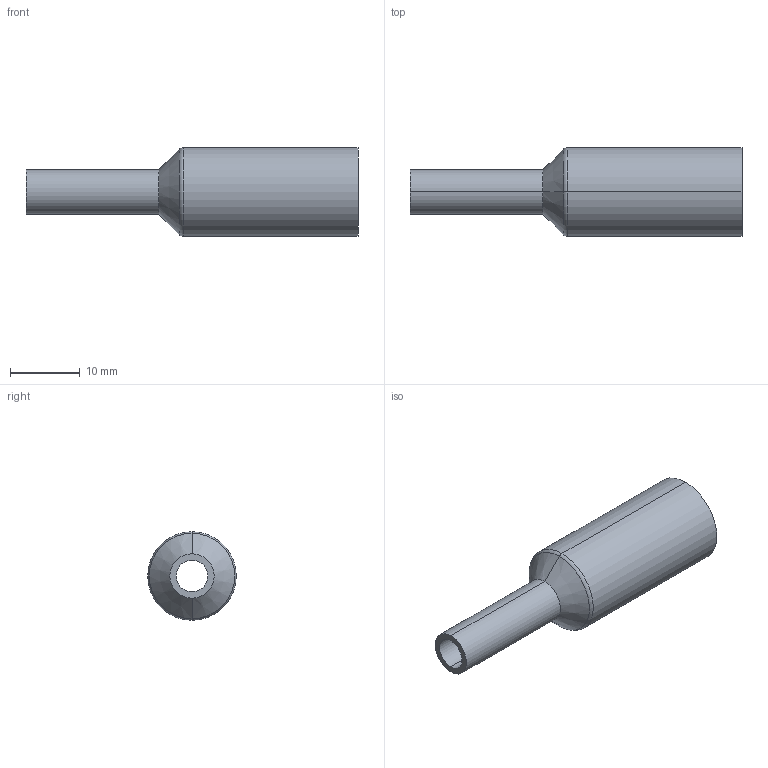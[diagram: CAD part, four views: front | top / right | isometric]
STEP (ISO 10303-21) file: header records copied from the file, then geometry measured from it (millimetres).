
FILE_DESCRIPTION (( 'STEP AP214' ), '1' );
FILE_NAME ('TE31SWW6L.5x.25-...STEP', '2016-05-29T09:24:01', ( 'eran' ), ( '' ), 'SwSTEP 2.0', 'SolidWorks 2016', '' );
FILE_SCHEMA (( 'AUTOMOTIVE_DESIGN' ));
Length unit declared in the file: millimetre
Products named in the file (1): TE31SWW6L.5x.25-..
Bounding box: 47.62 x 12.7 x 12.7 mm (x, y, z)
Volume: 2557.3 mm3; surface area: 2502.6 mm2
Topology: 1 solids, 1 shells, 18 faces, 36 edges, 20 vertices
Faces by surface type: cylinder 8, torus 4, cone 4, plane 2
Entity records: 506 total; most frequent: DIRECTION 98, CARTESIAN_POINT 75, ORIENTED_EDGE 72, AXIS2_PLACEMENT_3D 43, EDGE_CURVE 36, CIRCLE 24, VERTEX_POINT 20, EDGE_LOOP 20
